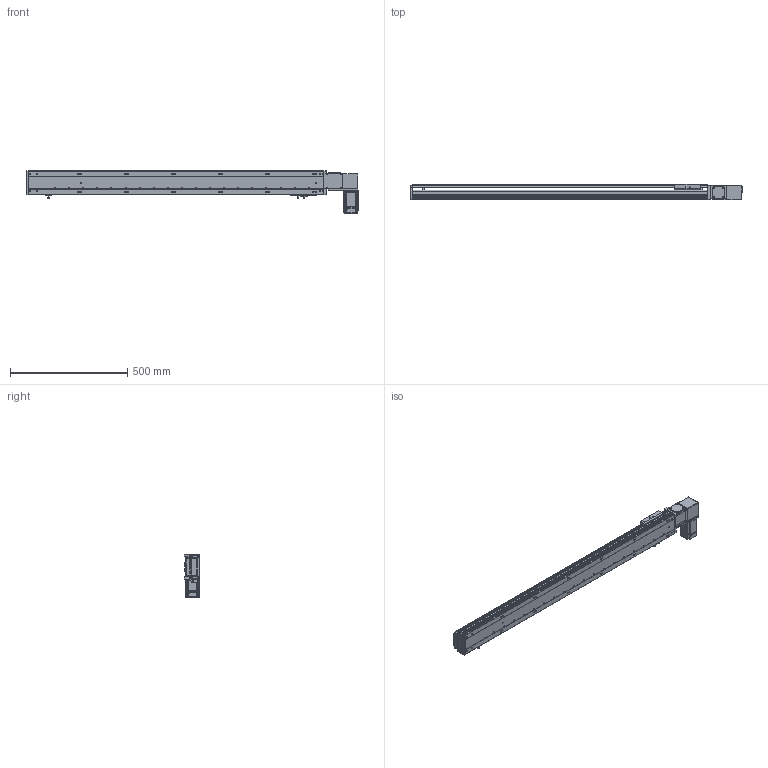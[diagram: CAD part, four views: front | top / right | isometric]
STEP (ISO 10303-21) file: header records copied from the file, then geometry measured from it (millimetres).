
FILE_DESCRIPTION (( 'STEP AP203' ), '1' );
FILE_NAME ('RY100-T-300-LK.SLDASM_1050.step', '2024-04-25T05:37:35', ( '盈信电脑' ), ( '东莞市道滘镇水果街19号' ), 'SwSTEP 2.0', 'SolidWorks 2016', '' );
FILE_SCHEMA (( 'CONFIG_CONTROL_DESIGN' ));
Length unit declared in the file: millimetre
Products named in the file (14): RY100-T翋肮祭謫裔啣2; 1; RY100-T肮祭謫翋盓傅釱; RY100-T-300-LK.SLDASM_1050; RY100-T-300-RK倰第菁釱_1050; RY100綴裔啣; 覜茼ん672; RY100-T左右折电机安装板; RY100俋离覜茼え; RY100-T粣創揤踡裔; RY100-T肮祭謫臏賑輸; RY80-T肮祭謫俋欶; 滅袉蝶18-10; RY100-T-300-RK倰第奻裔_1050
Assembly tree (17 placements, depth 2):
  RY100-T-300-LK.SLDASM_1050
    RY100-T-300-RK倰第菁釱_1050
    RY100-T-300-RK倰第奻裔_1050
    RY100-T肮祭謫臏賑輸
    RY100綴裔啣
    覜茼ん672  x3
    RY100俋离覜茼え
    RY100-T肮祭謫翋盓傅釱
    滅袉蝶18-10  x2
    RY100-T翋肮祭謫裔啣2  x2
    RY80-T肮祭謫俋欶
    RY100-T左右折电机安装板
    1
    RY100-T粣創揤踡裔
Bounding box: 1414 x 66 x 182.5 mm (x, y, z)
Volume: 2707783.8 mm3; surface area: 1113130.7 mm2
Topology: 17 solids, 17 shells, 2161 faces, 6004 edges, 3902 vertices
Faces by surface type: plane 1185, cylinder 769, cone 129, bspline 78
Entity records: 68703 total; most frequent: CARTESIAN_POINT 16517, ORIENTED_EDGE 10744, DIRECTION 10232, EDGE_CURVE 5372, VERTEX_POINT 3538, LINE 3500, VECTOR 3500, AXIS2_PLACEMENT_3D 3366
